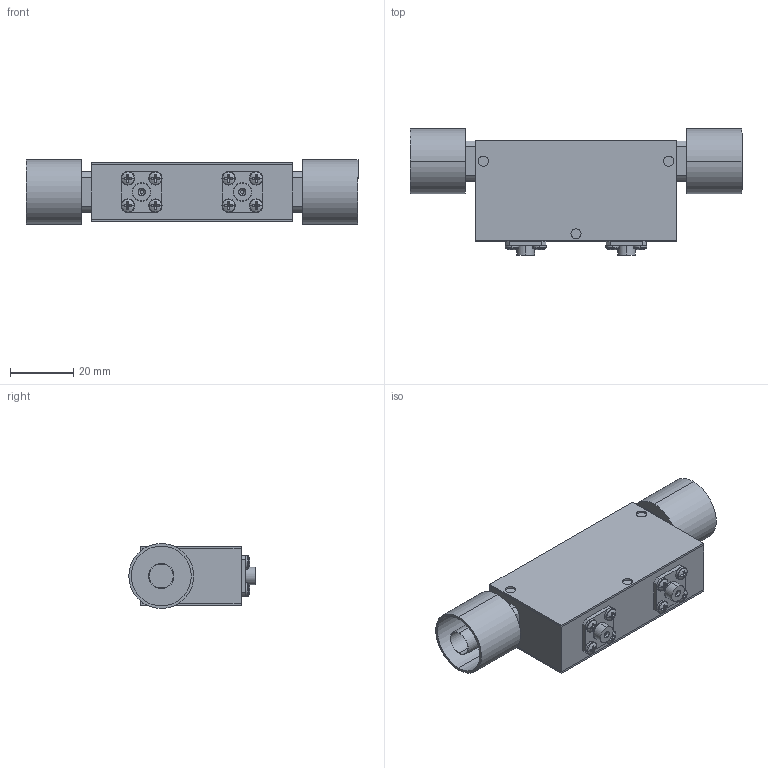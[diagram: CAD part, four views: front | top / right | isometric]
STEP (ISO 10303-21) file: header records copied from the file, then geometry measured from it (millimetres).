
FILE_DESCRIPTION (( 'STEP AP214' ), '1' );
FILE_NAME ('Package 13 Iso MM Type-N.step', '2021-12-01T20:57:42', ( '' ), ( '' ), 'SwSTEP 2.0', 'SolidWorks 2016', '' );
FILE_SCHEMA (( 'AUTOMOTIVE_DESIGN' ));
Length unit declared in the file: inch
Products named in the file (6): Package Size 13; Package 13; Delta Type N Male, 0.5in flange; pan cross head_ai_CR-PHMS 0.086-56x0.125x0.125-N; 030013-1A; Package 13 Iso MM Type-N
Assembly tree (14 placements, depth 2):
  Package 13 Iso MM Type-N
    Package 13
    030013-1A  x2
    pan cross head_ai_CR-PHMS 0.086-56x0.125x0.125-N  x8
    Delta Type N Male, 0.5in flange  x2
    Package Size 13
Bounding box: 104.65 x 39.81 x 20.45 mm (x, y, z)
Volume: 42002.4 mm3; surface area: 26340.1 mm2
Topology: 14 solids, 14 shells, 344 faces, 776 edges, 488 vertices
Faces by surface type: plane 180, cylinder 120, torus 20, sphere 16, cone 8
Entity records: 3786 total; most frequent: DIRECTION 682, CARTESIAN_POINT 586, ORIENTED_EDGE 548, EDGE_CURVE 274, AXIS2_PLACEMENT_3D 274, VERTEX_POINT 178, EDGE_LOOP 150, CIRCLE 140
